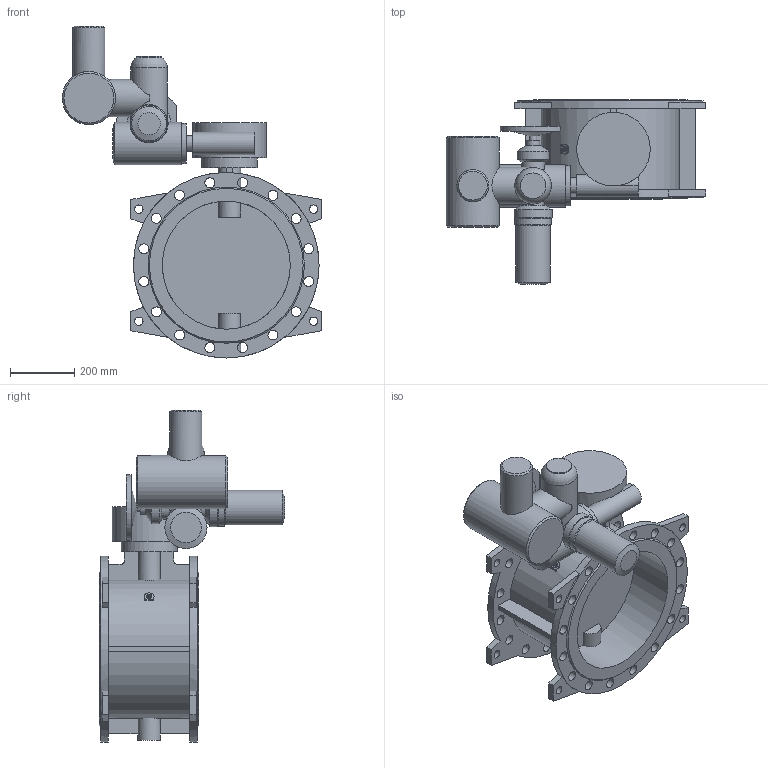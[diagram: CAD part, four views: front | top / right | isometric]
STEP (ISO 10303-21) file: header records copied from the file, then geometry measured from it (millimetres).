
FILE_DESCRIPTION(('STEP AP203'), '1');
FILE_NAME('Çàòâîð 023F.Z DN400 PN16 + ðåäóêòîð + MT903.À10 ñ ÁÓ', '', ('UNSPECIFIED'), ('UNSPECIFIED'), 'ASCON STEP Converter 1.6', 'ASCON Math Kernel', '');
FILE_SCHEMA(('CONFIG_CONTROL_DESIGN'));
Length unit declared in the file: millimetre
Bounding box: 810 x 578 x 1037 mm (x, y, z)
Volume: 41467545.2 mm3; surface area: 2625209 mm2
Topology: 1 solids, 1 shells, 226 faces, 547 edges, 358 vertices
Faces by surface type: plane 111, cylinder 101, cone 13, torus 1
Full cylindrical faces by diameter (mm): 8.5 x4, 12 x4, 14 x4, 18 x4, 24 x1, 26 x8, 31 x32, 42 x1, 50 x1, 66 x1, 70 x2, 72 x1, 80 x1, 100 x2, 108 x1, 114 x1, 115 x1, 116 x1, 119 x1, 125 x1, 132 x1, 166 x1, 175 x1, 230 x1, 400 x2, 580 x2
Entity records: 10511 total; most frequent: CARTESIAN_POINT 3472, DIRECTION 1084, ORIENTED_EDGE 898, EDGE_CURVE 449, AXIS2_PLACEMENT_3D 445, EDGE_LOOP 438, VERTEX_POINT 357, FACE_BOUND 260
